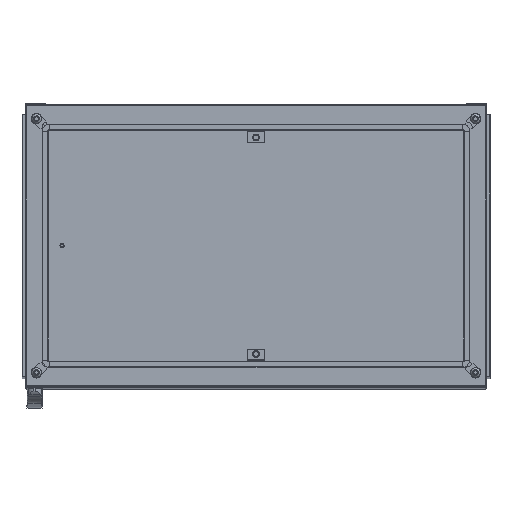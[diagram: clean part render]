
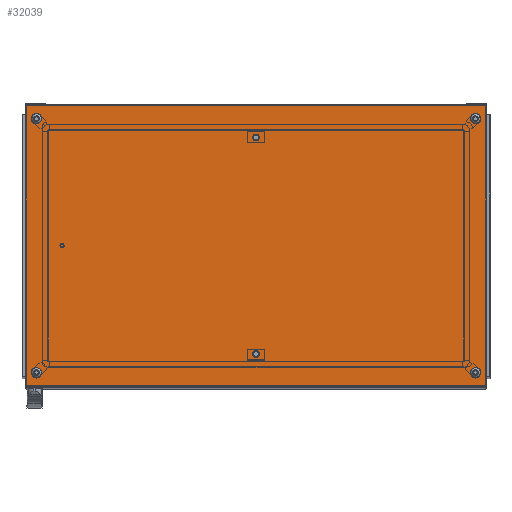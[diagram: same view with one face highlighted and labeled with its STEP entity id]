
A CAD part, top view. The second image highlights one B-rep face of the part: STEP entity #32039.
In plain terms, the highlighted planar face has unit normal (0, 0, 1).
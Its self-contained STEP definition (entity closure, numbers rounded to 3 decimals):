
#1528=CIRCLE('',#34357,7.321);
#1529=CIRCLE('',#34358,7.321);
#1530=CIRCLE('',#34359,6.);
#1531=CIRCLE('',#34360,6.);
#1532=CIRCLE('',#34361,6.);
#1533=CIRCLE('',#34362,6.);
#5623=ORIENTED_EDGE('',*,*,#13437,.F.);
#5624=ORIENTED_EDGE('',*,*,#13438,.F.);
#5625=ORIENTED_EDGE('',*,*,#13439,.F.);
#5626=ORIENTED_EDGE('',*,*,#13440,.F.);
#5627=ORIENTED_EDGE('',*,*,#13441,.F.);
#5628=ORIENTED_EDGE('',*,*,#13442,.F.);
#5629=ORIENTED_EDGE('',*,*,#13426,.T.);
#5630=ORIENTED_EDGE('',*,*,#13434,.T.);
#5631=ORIENTED_EDGE('',*,*,#13397,.F.);
#5632=ORIENTED_EDGE('',*,*,#13443,.F.);
#13397=EDGE_CURVE('',#17539,#17540,#20742,.T.);
#13426=EDGE_CURVE('',#17561,#17560,#20748,.T.);
#13434=EDGE_CURVE('',#17560,#17540,#20753,.T.);
#13437=EDGE_CURVE('',#17562,#17562,#1528,.T.);
#13438=EDGE_CURVE('',#17563,#17563,#1529,.T.);
#13439=EDGE_CURVE('',#17564,#17564,#1530,.T.);
#13440=EDGE_CURVE('',#17565,#17565,#1531,.T.);
#13441=EDGE_CURVE('',#17566,#17566,#1532,.T.);
#13442=EDGE_CURVE('',#17567,#17567,#1533,.T.);
#13443=EDGE_CURVE('',#17561,#17539,#20756,.T.);
#17539=VERTEX_POINT('',#49767);
#17540=VERTEX_POINT('',#49769);
#17560=VERTEX_POINT('',#49843);
#17561=VERTEX_POINT('',#49845);
#17562=VERTEX_POINT('',#49862);
#17563=VERTEX_POINT('',#49864);
#17564=VERTEX_POINT('',#49866);
#17565=VERTEX_POINT('',#49868);
#17566=VERTEX_POINT('',#49870);
#17567=VERTEX_POINT('',#49872);
#20742=LINE('',#49768,#23513);
#20748=LINE('',#49844,#23519);
#20753=LINE('',#49856,#23524);
#20756=LINE('',#49873,#23527);
#23513=VECTOR('',#39789,1000.);
#23519=VECTOR('',#39843,1000.);
#23524=VECTOR('',#39860,1000.);
#23527=VECTOR('',#39879,1000.);
#25954=EDGE_LOOP('',(#5623));
#25955=EDGE_LOOP('',(#5624));
#25956=EDGE_LOOP('',(#5625));
#25957=EDGE_LOOP('',(#5626));
#25958=EDGE_LOOP('',(#5627));
#25959=EDGE_LOOP('',(#5628));
#25960=EDGE_LOOP('',(#5629,#5630,#5631,#5632));
#28640=FACE_BOUND('',#25954,.T.);
#28641=FACE_BOUND('',#25955,.T.);
#28642=FACE_BOUND('',#25956,.T.);
#28643=FACE_BOUND('',#25957,.T.);
#28644=FACE_BOUND('',#25958,.T.);
#28645=FACE_BOUND('',#25959,.T.);
#28646=FACE_BOUND('',#25960,.T.);
#30979=PLANE('',#34356);
#32039=ADVANCED_FACE('',(#28640,#28641,#28642,#28643,#28644,#28645,#28646),
#30979,.T.);
#34356=AXIS2_PLACEMENT_3D('',#49860,#39865,#39866);
#34357=AXIS2_PLACEMENT_3D('',#49861,#39867,#39868);
#34358=AXIS2_PLACEMENT_3D('',#49863,#39869,#39870);
#34359=AXIS2_PLACEMENT_3D('',#49865,#39871,#39872);
#34360=AXIS2_PLACEMENT_3D('',#49867,#39873,#39874);
#34361=AXIS2_PLACEMENT_3D('',#49869,#39875,#39876);
#34362=AXIS2_PLACEMENT_3D('',#49871,#39877,#39878);
#39789=DIRECTION('',(-1.,0.,0.));
#39843=DIRECTION('',(-1.,0.,0.));
#39860=DIRECTION('',(0.,-1.,0.));
#39865=DIRECTION('',(0.,0.,1.));
#39866=DIRECTION('',(1.,0.,0.));
#39867=DIRECTION('',(0.,0.,1.));
#39868=DIRECTION('',(1.,0.,0.));
#39869=DIRECTION('',(0.,0.,1.));
#39870=DIRECTION('',(1.,0.,0.));
#39871=DIRECTION('',(0.,0.,1.));
#39872=DIRECTION('',(1.,0.,0.));
#39873=DIRECTION('',(0.,0.,1.));
#39874=DIRECTION('',(1.,0.,0.));
#39875=DIRECTION('',(0.,0.,1.));
#39876=DIRECTION('',(1.,0.,0.));
#39877=DIRECTION('',(0.,0.,1.));
#39878=DIRECTION('',(1.,0.,0.));
#39879=DIRECTION('',(0.,-1.,0.));
#49767=CARTESIAN_POINT('',(496.5,-302.5,20.));
#49768=CARTESIAN_POINT('',(500.,-302.5,20.));
#49769=CARTESIAN_POINT('',(-496.5,-302.5,20.));
#49843=CARTESIAN_POINT('',(-496.5,302.5,20.));
#49844=CARTESIAN_POINT('',(500.,302.5,20.));
#49845=CARTESIAN_POINT('',(496.5,302.5,20.));
#49856=CARTESIAN_POINT('',(-496.5,305.5,20.));
#49860=CARTESIAN_POINT('',(-496.5,-302.5,20.));
#49861=CARTESIAN_POINT('',(0.,-234.,20.));
#49862=CARTESIAN_POINT('',(7.321,-234.,20.));
#49863=CARTESIAN_POINT('',(0.,234.,20.));
#49864=CARTESIAN_POINT('',(7.321,234.,20.));
#49865=CARTESIAN_POINT('',(474.5,-274.5,20.));
#49866=CARTESIAN_POINT('',(480.5,-274.5,20.));
#49867=CARTESIAN_POINT('',(-474.5,274.5,20.));
#49868=CARTESIAN_POINT('',(-468.5,274.5,20.));
#49869=CARTESIAN_POINT('',(474.5,274.5,20.));
#49870=CARTESIAN_POINT('',(480.5,274.5,20.));
#49871=CARTESIAN_POINT('',(-474.5,-274.5,20.));
#49872=CARTESIAN_POINT('',(-468.5,-274.5,20.));
#49873=CARTESIAN_POINT('',(496.5,305.5,20.));
